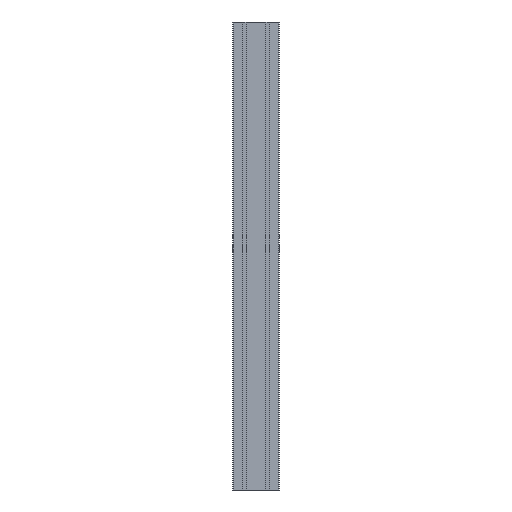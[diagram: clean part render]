
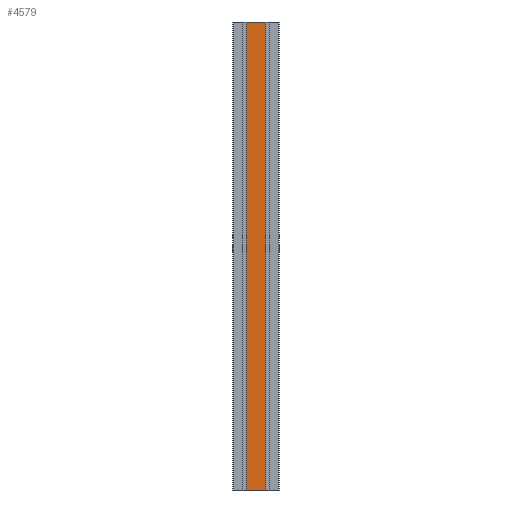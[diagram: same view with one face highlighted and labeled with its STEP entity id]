
A CAD part, left-side view. The second image highlights one B-rep face of the part: STEP entity #4579.
In plain terms, the highlighted planar face has unit normal (-1, 0, 0).
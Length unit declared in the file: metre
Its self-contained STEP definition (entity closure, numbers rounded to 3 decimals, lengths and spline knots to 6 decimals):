
#147=FACE_OUTER_BOUND('',#399,.T.);
#399=EDGE_LOOP('',(#3606,#3607,#3608,#3609));
#830=LINE('',#6649,#1378);
#915=LINE('',#6958,#1463);
#1100=LINE('',#7467,#1648);
#1101=LINE('',#7469,#1649);
#1378=VECTOR('',#5255,0.0417);
#1463=VECTOR('',#5480,0.0417);
#1648=VECTOR('',#5881,1.);
#1649=VECTOR('',#5884,1.);
#1930=VERTEX_POINT('',#6646);
#1931=VERTEX_POINT('',#6648);
#2084=VERTEX_POINT('',#6955);
#2085=VERTEX_POINT('',#6957);
#2394=EDGE_CURVE('',#1930,#1931,#830,.T.);
#2548=EDGE_CURVE('',#2085,#2084,#915,.T.);
#2804=EDGE_CURVE('',#1930,#2085,#1100,.T.);
#2805=EDGE_CURVE('',#1931,#2084,#1101,.T.);
#3606=ORIENTED_EDGE('',*,*,#2548,.T.);
#3607=ORIENTED_EDGE('',*,*,#2805,.F.);
#3608=ORIENTED_EDGE('',*,*,#2394,.F.);
#3609=ORIENTED_EDGE('',*,*,#2804,.T.);
#4417=PLANE('',#4960);
#4579=ADVANCED_FACE('',(#147),#4417,.F.);
#4960=AXIS2_PLACEMENT_3D('',#7468,#5882,#5883);
#5255=DIRECTION('',(0.,-1.,0.));
#5480=DIRECTION('',(0.,-1.,0.));
#5881=DIRECTION('',(0.,0.,-1.));
#5882=DIRECTION('center_axis',(1.,0.,0.));
#5883=DIRECTION('ref_axis',(0.,0.,-1.));
#5884=DIRECTION('',(0.,0.,-1.));
#6646=CARTESIAN_POINT('',(-0.05,0.02085,1.));
#6648=CARTESIAN_POINT('',(-0.05,-0.02085,1.));
#6649=CARTESIAN_POINT('',(-0.05,0.02085,1.));
#6955=CARTESIAN_POINT('',(-0.05,-0.02085,0.));
#6957=CARTESIAN_POINT('',(-0.05,0.02085,0.));
#6958=CARTESIAN_POINT('',(-0.05,0.02085,0.));
#7467=CARTESIAN_POINT('',(-0.05,0.02085,1.));
#7468=CARTESIAN_POINT('Origin',(-0.05,0.02085,1.));
#7469=CARTESIAN_POINT('',(-0.05,-0.02085,1.));
